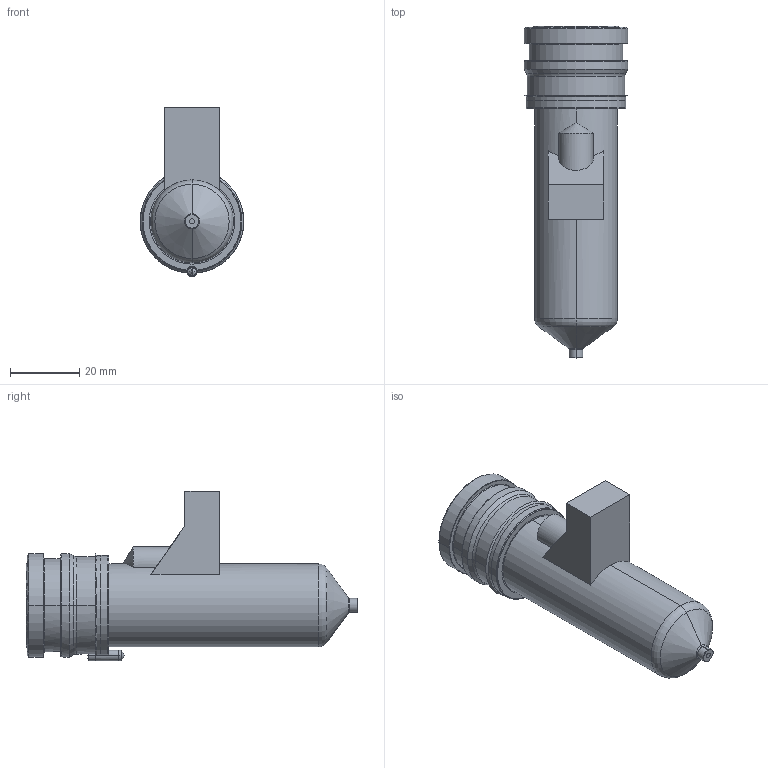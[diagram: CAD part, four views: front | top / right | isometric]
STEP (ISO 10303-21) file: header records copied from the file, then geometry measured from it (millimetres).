
FILE_DESCRIPTION((''),'2;1');
FILE_NAME('MPN-10-29-VP4-076-M','2026-02-05T12:58:29',('UPTIO'),('Thermoplay S.p.A.'),'CREO PARAMETRIC BY PTC INC, 2023494','CREO PARAMETRIC BY PTC INC, 2023494','');
FILE_SCHEMA(('CONFIG_CONTROL_DESIGN','SHAPE_APPEARANCE_LAYERS_GROUPS'));
Length unit declared in the file: millimetre
Products named in the file (1): MPN-10-29-VP4-076-M
Bounding box: 30 x 96.1 x 49 mm (x, y, z)
Volume: 31123.2 mm3; surface area: 32132.1 mm2
Topology: 3 solids, 5 shells, 573 faces, 1479 edges, 911 vertices
Faces by surface type: cylinder 177, plane 159, bspline 92, torus 69, cone 66, sphere 6, extrusion 4
Entity records: 29767 total; most frequent: CARTESIAN_POINT 13361, ORIENTED_EDGE 2944, DIRECTION 2627, EDGE_CURVE 1472, AXIS2_PLACEMENT_3D 1039, VERTEX_POINT 911, EDGE_LOOP 601, FACE_OUTER_BOUND 573
